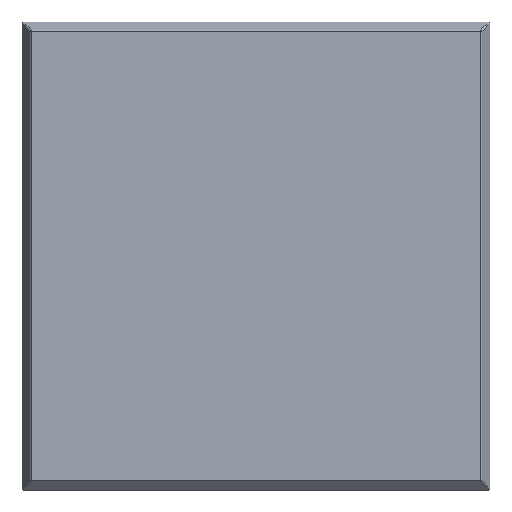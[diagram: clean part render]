
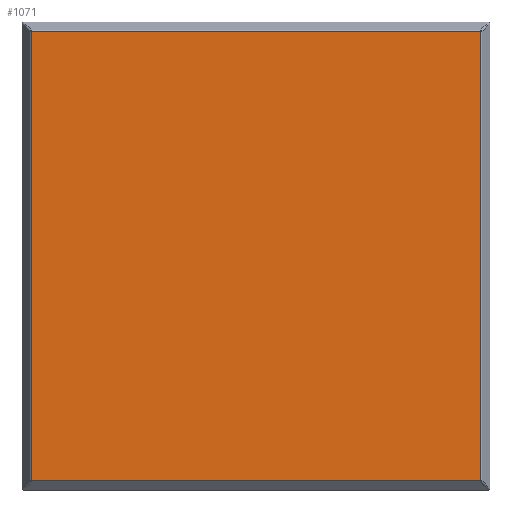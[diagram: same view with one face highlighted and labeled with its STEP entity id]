
A CAD part, top view. The second image highlights one B-rep face of the part: STEP entity #1071.
In plain terms, the highlighted planar face has unit normal (0, 0, 1).
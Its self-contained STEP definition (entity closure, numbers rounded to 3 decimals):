
#1071=ADVANCED_FACE('',(#3067),#3069,.T.);
#3067=FACE_BOUND('',#3068,.T.);
#3068=EDGE_LOOP('',(#7783,#7784,#7785,#7786));
#3069=PLANE('',#3070);
#3070=AXIS2_PLACEMENT_3D('',#3071,#3072,#3073);
#3071=CARTESIAN_POINT('',(0.,0.,0.));
#3072=DIRECTION('',(0.,0.,1.));
#3073=DIRECTION('',(0.,1.,0.));
#7783=ORIENTED_EDGE('',*,*,#8467,.T.);
#7784=ORIENTED_EDGE('',*,*,#8463,.T.);
#7785=ORIENTED_EDGE('',*,*,#8472,.T.);
#7786=ORIENTED_EDGE('',*,*,#8470,.T.);
#8463=EDGE_CURVE('',#9183,#9180,#9184,.T.);
#8467=EDGE_CURVE('',#9187,#9183,#9189,.T.);
#8470=EDGE_CURVE('',#9191,#9187,#9193,.T.);
#8472=EDGE_CURVE('',#9180,#9191,#9195,.T.);
#9180=VERTEX_POINT('',#11034);
#9183=VERTEX_POINT('',#11043);
#9184=LINE('',#11044,#11045);
#9187=VERTEX_POINT('',#11055);
#9189=LINE('',#11060,#11061);
#9191=VERTEX_POINT('',#11067);
#9193=LINE('',#11072,#11073);
#9195=LINE('',#11079,#11080);
#11034=CARTESIAN_POINT('',(-527.77,527.77,0.));
#11043=CARTESIAN_POINT('',(527.77,527.77,0.));
#11044=CARTESIAN_POINT('',(527.77,527.77,0.));
#11045=VECTOR('',#11046,1.);
#11046=DIRECTION('',(-1.,0.,0.));
#11055=CARTESIAN_POINT('',(527.77,-527.77,0.));
#11060=CARTESIAN_POINT('',(527.77,-527.77,0.));
#11061=VECTOR('',#11062,1.);
#11062=DIRECTION('',(0.,1.,0.));
#11067=CARTESIAN_POINT('',(-527.77,-527.77,0.));
#11072=CARTESIAN_POINT('',(-527.77,-527.77,0.));
#11073=VECTOR('',#11074,1.);
#11074=DIRECTION('',(1.,0.,0.));
#11079=CARTESIAN_POINT('',(-527.77,527.77,0.));
#11080=VECTOR('',#11081,1.);
#11081=DIRECTION('',(0.,-1.,0.));
